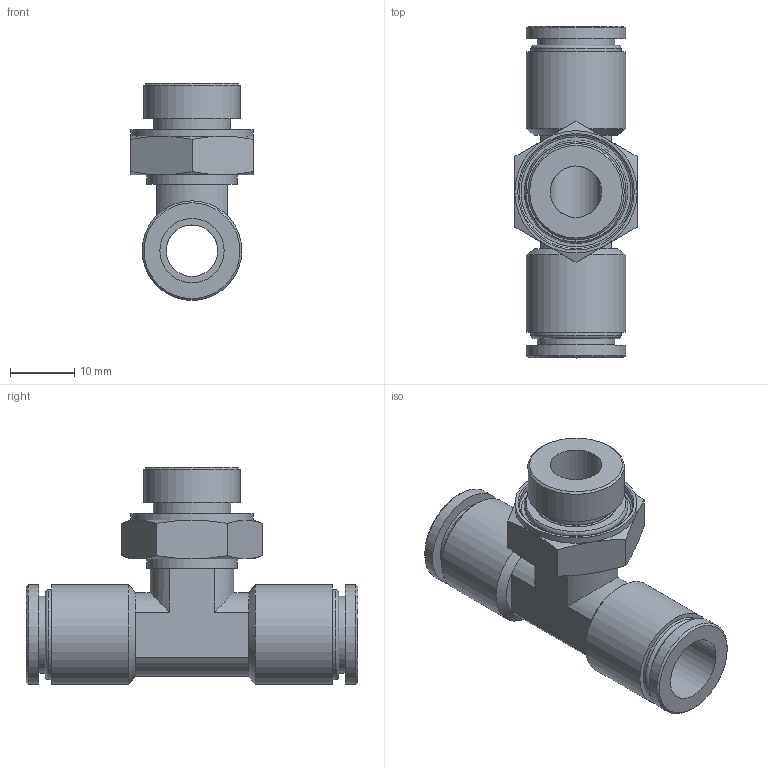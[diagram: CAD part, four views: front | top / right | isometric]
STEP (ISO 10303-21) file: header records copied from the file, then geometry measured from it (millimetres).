
FILE_DESCRIPTION(/* description */ (''),/* implementation_level */ '2;1');
FILE_NAME(/* name */ 'LXH38 0010 B3.stp',/* time_stamp */ '2026-04-25T14:24:51+02:00',/* author */ ('freju'),/* organization */ (''),/* preprocessor_version */ 'ST-DEVELOPER v20.1',/* originating_system */ 'Autodesk Inventor 2026',/* authorisation */ '');
FILE_SCHEMA (('AUTOMOTIVE_DESIGN { 1 0 10303 214 3 1 1 }'));
Length unit declared in the file: millimetre
Products named in the file (4): LXH38 0010 B3; LXH38 0010 B3_1; O-Ring; ISO 3601-1 - A 0125 G
Assembly tree (3 placements, depth 3):
  LXH38 0010 B3
    LXH38 0010 B3_1
    O-Ring
      ISO 3601-1 - A 0125 G
Bounding box: 19 x 51.6 x 33.75 mm (x, y, z)
Volume: 7530.6 mm3; surface area: 6815.6 mm2
Topology: 2 solids, 2 shells, 79 faces, 162 edges, 100 vertices
Faces by surface type: plane 31, cylinder 23, cone 17, torus 8
Full cylindrical faces by diameter (mm): 8 x2, 10 x2, 12 x3, 12.5 x1, 14 x3, 15 x1, 15.5 x4, 17.7 x1, 19 x1
Entity records: 2226 total; most frequent: DIRECTION 402, CARTESIAN_POINT 396, ORIENTED_EDGE 324, AXIS2_PLACEMENT_3D 178, EDGE_CURVE 162, VERTEX_POINT 100, EDGE_LOOP 98, CIRCLE 88
